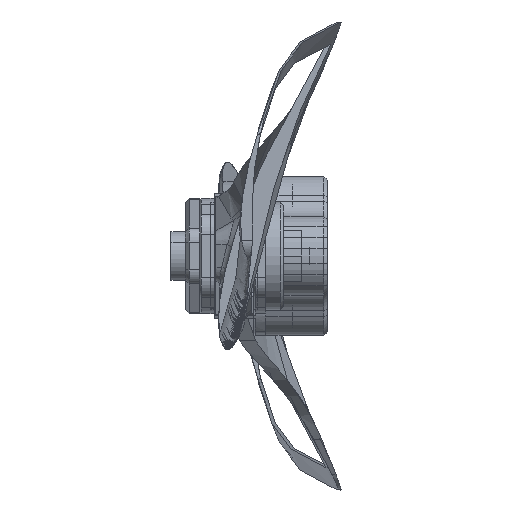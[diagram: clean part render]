
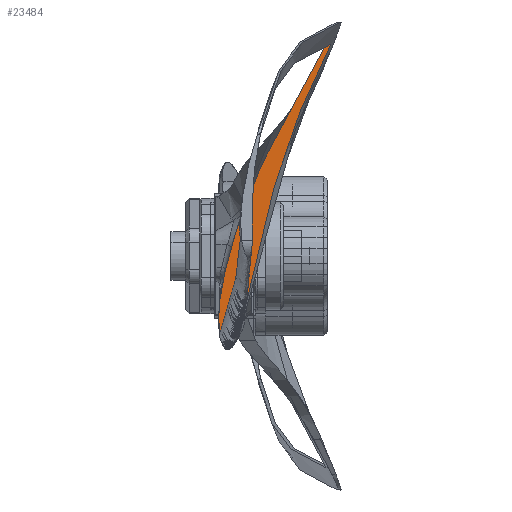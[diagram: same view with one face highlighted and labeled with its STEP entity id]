
A CAD part, left-side view. The second image highlights one B-rep face of the part: STEP entity #23484.
In plain terms, the highlighted planar face has unit normal (-1, 0, 0) as drawn and (0, 0, 1) by its records, which use the part's own axes.
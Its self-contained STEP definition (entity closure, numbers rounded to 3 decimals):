
#134 = CARTESIAN_POINT ( 'NONE',  ( 1.132, 0.088, 63.302 ) ) ;
#167 = PLANE ( 'NONE',  #16778 ) ;
#871 = CARTESIAN_POINT ( 'NONE',  ( 23.055, -5.598, 63.302 ) ) ;
#1043 = CARTESIAN_POINT ( 'NONE',  ( -4.559, 5.204, 63.302 ) ) ;
#1403 = CARTESIAN_POINT ( 'NONE',  ( -2.351, 4.788, 63.302 ) ) ;
#1510 = ORIENTED_EDGE ( 'NONE', *, *, #1762, .T. ) ;
#1580 = CARTESIAN_POINT ( 'NONE',  ( -10.449, 5.545, 63.302 ) ) ;
#1762 = EDGE_CURVE ( 'NONE', #8900, #20355, #35018, .T. ) ;
#2324 = CARTESIAN_POINT ( 'NONE',  ( 13.039, -3.151, 63.302 ) ) ;
#2503 = CARTESIAN_POINT ( 'NONE',  ( 21.312, -6.197, 63.302 ) ) ;
#2673 = CARTESIAN_POINT ( 'NONE',  ( -1.448, 0.676, 63.302 ) ) ;
#2841 = CARTESIAN_POINT ( 'NONE',  ( -7.485, 1.976, 63.302 ) ) ;
#3050 = DIRECTION ( 'NONE',  ( -1., 0., 0. ) ) ;
#3195 = CARTESIAN_POINT ( 'NONE',  ( 28.499, -9.54, 63.302 ) ) ;
#3748 = CARTESIAN_POINT ( 'NONE',  ( 3.299, 3.267, 63.302 ) ) ;
#4090 = CARTESIAN_POINT ( 'NONE',  ( -9.987, 5.578, 63.302 ) ) ;
#4148 = VECTOR ( 'NONE', #23617, 1000. ) ;
#4275 = CARTESIAN_POINT ( 'NONE',  ( 9.266, 1.118, 63.302 ) ) ;
#5032 = CARTESIAN_POINT ( 'NONE',  ( -6.624, 1.784, 63.302 ) ) ;
#6263 = CARTESIAN_POINT ( 'NONE',  ( -9.063, 5.607, 63.302 ) ) ;
#6444 = CARTESIAN_POINT ( 'NONE',  ( 29.297, -9.251, 63.302 ) ) ;
#6629 = CARTESIAN_POINT ( 'NONE',  ( -9.755, 5.587, 63.302 ) ) ;
#6805 = CARTESIAN_POINT ( 'NONE',  ( 0.695, 3.987, 63.302 ) ) ;
#7895 = CARTESIAN_POINT ( 'NONE',  ( 18.029, -4.916, 63.302 ) ) ;
#8059 = CARTESIAN_POINT ( 'NONE',  ( 26.119, -8.39, 63.302 ) ) ;
#8589 = CARTESIAN_POINT ( 'NONE',  ( 29.297, -9.914, 63.302 ) ) ;
#8900 = VERTEX_POINT ( 'NONE', #19010 ) ;
#8960 = CARTESIAN_POINT ( 'NONE',  ( -6.339, 5.473, 63.302 ) ) ;
#9096 = CARTESIAN_POINT ( 'NONE',  ( -10.908, -12.831, 63.302 ) ) ;
#9502 = CARTESIAN_POINT ( 'NONE',  ( 11.775, 0.084, 63.302 ) ) ;
#10598 = CARTESIAN_POINT ( 'NONE',  ( -4.034, 1.239, 63.302 ) ) ;
#10763 = CARTESIAN_POINT ( 'NONE',  ( 23.73, -7.261, 63.302 ) ) ;
#10930 = CARTESIAN_POINT ( 'NONE',  ( 13.873, -3.437, 63.302 ) ) ;
#11112 = CARTESIAN_POINT ( 'NONE',  ( 7.977, -1.627, 63.302 ) ) ;
#11148 = DIRECTION ( 'NONE',  ( 0., 0., -1. ) ) ;
#11658 = B_SPLINE_CURVE_WITH_KNOTS ( 'NONE', 3,
 ( #6444, #11850, #871, #34176, #17256, #28777, #9502, #4275, #17439, #31647, #17962, #20313, #3748, #26077, #23388, #6805, #28950, #15265, #31472, #28430, #1403, #14733, #20497, #1043, #12025, #23026, #8960, #33990, #31294, #12394, #6263, #6629, #4090, #1580, #15084, #22672 ),
 .UNSPECIFIED., .F., .F.,
 ( 4, 2, 2, 2, 2, 2, 2, 2, 2, 2, 2, 2, 2, 2, 2, 2, 2, 4 ),
 ( 0., 0.011, 0.016, 0.022, 0.024, 0.027, 0.03, 0.031, 0.032, 0.034, 0.035, 0.037, 0.038, 0.039, 0.041, 0.042, 0.043, 0.043 ),
 .UNSPECIFIED. ) ;
#11850 = CARTESIAN_POINT ( 'NONE',  ( 26.184, -7.408, 63.302 ) ) ;
#12025 = CARTESIAN_POINT ( 'NONE',  ( -5.003, 5.277, 63.302 ) ) ;
#12394 = CARTESIAN_POINT ( 'NONE',  ( -8.604, 5.608, 63.302 ) ) ;
#12754 = EDGE_LOOP ( 'NONE', ( #1510, #16646, #23451, #31626 ) ) ;
#12987 = CARTESIAN_POINT ( 'NONE',  ( 29.297, -12.831, 63.302 ) ) ;
#13306 = CARTESIAN_POINT ( 'NONE',  ( 15.538, -4.022, 63.302 ) ) ;
#13492 = CARTESIAN_POINT ( 'NONE',  ( 8.828, -1.857, 63.302 ) ) ;
#13836 = CARTESIAN_POINT ( 'NONE',  ( -2.309, 0.868, 63.302 ) ) ;
#14733 = CARTESIAN_POINT ( 'NONE',  ( -3.231, 4.97, 63.302 ) ) ;
#15084 = CARTESIAN_POINT ( 'NONE',  ( -10.679, 5.521, 63.302 ) ) ;
#15265 = CARTESIAN_POINT ( 'NONE',  ( -0.608, 4.341, 63.302 ) ) ;
#15870 = LINE ( 'NONE', #12987, #4148 ) ;
#16015 = CARTESIAN_POINT ( 'NONE',  ( 5.417, -0.961, 63.302 ) ) ;
#16186 = CARTESIAN_POINT ( 'NONE',  ( 20.498, -5.861, 63.302 ) ) ;
#16479 = EDGE_CURVE ( 'NONE', #31853, #24591, #11658, .T. ) ;
#16538 = CARTESIAN_POINT ( 'NONE',  ( -8.777, 2.262, 63.302 ) ) ;
#16646 = ORIENTED_EDGE ( 'NONE', *, *, #28842, .T. ) ;
#16778 = AXIS2_PLACEMENT_3D ( 'NONE', #21968, #11148, #3050 ) ;
#17256 = CARTESIAN_POINT ( 'NONE',  ( 16.669, -2.231, 63.302 ) ) ;
#17439 = CARTESIAN_POINT ( 'NONE',  ( 8.424, 1.451, 63.302 ) ) ;
#17962 = CARTESIAN_POINT ( 'NONE',  ( 5.874, 2.408, 63.302 ) ) ;
#18878 = CARTESIAN_POINT ( 'NONE',  ( 18.856, -5.221, 63.302 ) ) ;
#19010 = CARTESIAN_POINT ( 'NONE',  ( -10.908, 2.839, 63.302 ) ) ;
#19237 = CARTESIAN_POINT ( 'NONE',  ( -10.065, 2.568, 63.302 ) ) ;
#19409 = CARTESIAN_POINT ( 'NONE',  ( -4.899, 1.416, 63.302 ) ) ;
#19941 = CARTESIAN_POINT ( 'NONE',  ( 29.297, -9.251, 63.302 ) ) ;
#20274 = EDGE_CURVE ( 'NONE', #8900, #24591, #25148, .T. ) ;
#20313 = CARTESIAN_POINT ( 'NONE',  ( 4.16, 2.994, 63.302 ) ) ;
#20355 = VERTEX_POINT ( 'NONE', #30714 ) ;
#20497 = CARTESIAN_POINT ( 'NONE',  ( -3.673, 5.051, 63.302 ) ) ;
#21600 = CARTESIAN_POINT ( 'NONE',  ( 6.271, -1.179, 63.302 ) ) ;
#21968 = CARTESIAN_POINT ( 'NONE',  ( -10.908, -12.831, 63.302 ) ) ;
#22672 = CARTESIAN_POINT ( 'NONE',  ( -10.908, 5.479, 63.302 ) ) ;
#23026 = CARTESIAN_POINT ( 'NONE',  ( -5.892, 5.413, 63.302 ) ) ;
#23388 = CARTESIAN_POINT ( 'NONE',  ( 1.564, 3.753, 63.302 ) ) ;
#23451 = ORIENTED_EDGE ( 'NONE', *, *, #16479, .T. ) ;
#23484 = ADVANCED_FACE ( 'NONE', ( #33480 ), #167, .F. ) ;
#23617 = DIRECTION ( 'NONE',  ( 0., 1., 0. ) ) ;
#24119 = CARTESIAN_POINT ( 'NONE',  ( -10.491, 2.684, 63.302 ) ) ;
#24298 = CARTESIAN_POINT ( 'NONE',  ( 16.369, -4.318, 63.302 ) ) ;
#24475 = CARTESIAN_POINT ( 'NONE',  ( 22.928, -6.897, 63.302 ) ) ;
#24591 = VERTEX_POINT ( 'NONE', #26318 ) ;
#24640 = CARTESIAN_POINT ( 'NONE',  ( 2.849, -0.321, 63.302 ) ) ;
#25148 = LINE ( 'NONE', #9096, #26048 ) ;
#26048 = VECTOR ( 'NONE', #28566, 1000. ) ;
#26077 = CARTESIAN_POINT ( 'NONE',  ( 1.999, 3.636, 63.302 ) ) ;
#26318 = CARTESIAN_POINT ( 'NONE',  ( -10.908, 5.479, 63.302 ) ) ;
#27000 = CARTESIAN_POINT ( 'NONE',  ( 10.521, -2.345, 63.302 ) ) ;
#28430 = CARTESIAN_POINT ( 'NONE',  ( -1.914, 4.686, 63.302 ) ) ;
#28566 = DIRECTION ( 'NONE',  ( 0., 1., 0. ) ) ;
#28777 = CARTESIAN_POINT ( 'NONE',  ( 13.42, -0.659, 63.302 ) ) ;
#28842 = EDGE_CURVE ( 'NONE', #20355, #31853, #15870, .T. ) ;
#28950 = CARTESIAN_POINT ( 'NONE',  ( 0.26, 4.104, 63.302 ) ) ;
#30038 = CARTESIAN_POINT ( 'NONE',  ( -10.908, 2.839, 63.302 ) ) ;
#30219 = CARTESIAN_POINT ( 'NONE',  ( -9.208, 2.358, 63.302 ) ) ;
#30714 = CARTESIAN_POINT ( 'NONE',  ( 29.297, -9.914, 63.302 ) ) ;
#31294 = CARTESIAN_POINT ( 'NONE',  ( -7.691, 5.587, 63.302 ) ) ;
#31472 = CARTESIAN_POINT ( 'NONE',  ( -1.042, 4.462, 63.302 ) ) ;
#31626 = ORIENTED_EDGE ( 'NONE', *, *, #20274, .F. ) ;
#31647 = CARTESIAN_POINT ( 'NONE',  ( 6.729, 2.095, 63.302 ) ) ;
#31853 = VERTEX_POINT ( 'NONE', #19941 ) ;
#32742 = CARTESIAN_POINT ( 'NONE',  ( 25.325, -8.008, 63.302 ) ) ;
#33270 = CARTESIAN_POINT ( 'NONE',  ( 27.706, -9.156, 63.302 ) ) ;
#33480 = FACE_OUTER_BOUND ( 'NONE', #12754, .T. ) ;
#33990 = CARTESIAN_POINT ( 'NONE',  ( -7.238, 5.562, 63.302 ) ) ;
#34176 = CARTESIAN_POINT ( 'NONE',  ( 18.275, -3.053, 63.302 ) ) ;
#35018 = B_SPLINE_CURVE_WITH_KNOTS ( 'NONE', 3,
 ( #30038, #24119, #19237, #30219, #16538, #2841, #5032, #19409, #10598, #13836, #2673, #134, #24640, #16015, #21600, #11112, #13492, #27000, #35614, #2324, #10930, #13306, #24298, #7895, #18878, #16186, #2503, #24475, #10763, #32742, #8059, #33270, #3195, #8589 ),
 .UNSPECIFIED., .F., .F.,
 ( 4, 2, 2, 2, 2, 2, 2, 2, 2, 2, 2, 2, 2, 2, 2, 2, 4 ),
 ( 0., 0.001, 0.003, 0.005, 0.008, 0.011, 0.016, 0.019, 0.021, 0.024, 0.026, 0.029, 0.032, 0.034, 0.037, 0.04, 0.042 ),
 .UNSPECIFIED. ) ;
#35614 = CARTESIAN_POINT ( 'NONE',  ( 11.363, -2.604, 63.302 ) ) ;
